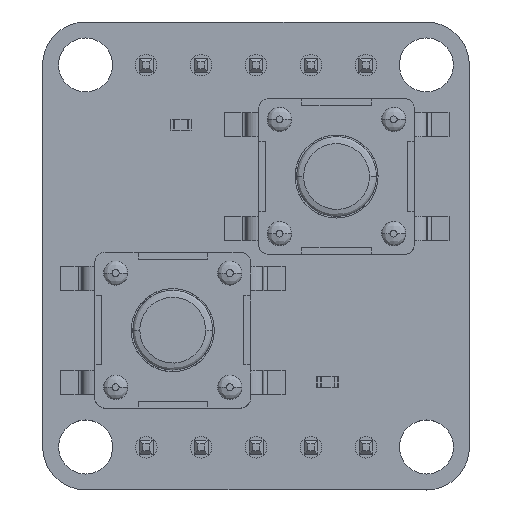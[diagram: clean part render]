
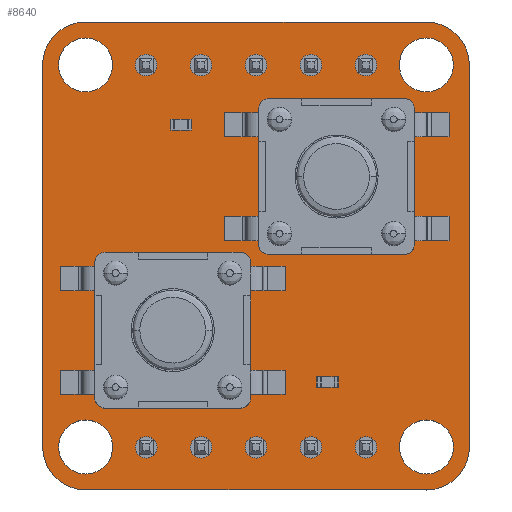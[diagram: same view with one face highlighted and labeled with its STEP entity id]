
A CAD part, top view. The second image highlights one B-rep face of the part: STEP entity #8640.
In plain terms, the highlighted planar face has unit normal (0, 0, 1).
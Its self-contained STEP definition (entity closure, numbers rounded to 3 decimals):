
#8337 = VERTEX_POINT('',#8338);
#8338 = CARTESIAN_POINT('',(187.182,-85.744,1.6));
#8344 = EDGE_CURVE('',#8337,#8345,#8347,.T.);
#8345 = VERTEX_POINT('',#8346);
#8346 = CARTESIAN_POINT('',(189.168,-87.73,1.6));
#8347 = CIRCLE('',#8348,1.986);
#8348 = AXIS2_PLACEMENT_3D('',#8349,#8350,#8351);
#8349 = CARTESIAN_POINT('',(187.182,-87.73,1.6));
#8350 = DIRECTION('',(0.,0.,-1.));
#8351 = DIRECTION('',(0.,1.,0.));
#8379 = VERTEX_POINT('',#8380);
#8380 = CARTESIAN_POINT('',(171.423,-85.744,1.6));
#8386 = EDGE_CURVE('',#8379,#8337,#8387,.T.);
#8387 = LINE('',#8388,#8389);
#8388 = CARTESIAN_POINT('',(171.423,-85.744,1.6));
#8389 = VECTOR('',#8390,1.);
#8390 = DIRECTION('',(1.,0.,0.));
#8408 = EDGE_CURVE('',#8345,#8409,#8411,.T.);
#8409 = VERTEX_POINT('',#8410);
#8410 = CARTESIAN_POINT('',(189.174,-105.395,1.6));
#8411 = LINE('',#8412,#8413);
#8412 = CARTESIAN_POINT('',(189.168,-87.73,1.6));
#8413 = VECTOR('',#8414,1.);
#8414 = DIRECTION('',(0.,-1.,0.));
#8640 = ADVANCED_FACE('',(#8641,#8687,#8698,#8709,#8720,#8731,#8742,
    #8753,#8764,#8775,#8786,#8797,#8808,#8819,#8830),#8841,.T.);
#8641 = FACE_BOUND('',#8642,.T.);
#8642 = EDGE_LOOP('',(#8643,#8644,#8645,#8654,#8662,#8671,#8679,#8686));
#8643 = ORIENTED_EDGE('',*,*,#8344,.F.);
#8644 = ORIENTED_EDGE('',*,*,#8386,.F.);
#8645 = ORIENTED_EDGE('',*,*,#8646,.F.);
#8646 = EDGE_CURVE('',#8647,#8379,#8649,.T.);
#8647 = VERTEX_POINT('',#8648);
#8648 = CARTESIAN_POINT('',(169.437,-87.73,1.6));
#8649 = CIRCLE('',#8650,1.986);
#8650 = AXIS2_PLACEMENT_3D('',#8651,#8652,#8653);
#8651 = CARTESIAN_POINT('',(171.423,-87.73,1.6));
#8652 = DIRECTION('',(0.,0.,-1.));
#8653 = DIRECTION('',(-1.,0.,0.));
#8654 = ORIENTED_EDGE('',*,*,#8655,.F.);
#8655 = EDGE_CURVE('',#8656,#8647,#8658,.T.);
#8656 = VERTEX_POINT('',#8657);
#8657 = CARTESIAN_POINT('',(169.443,-105.395,1.6));
#8658 = LINE('',#8659,#8660);
#8659 = CARTESIAN_POINT('',(169.443,-105.395,1.6));
#8660 = VECTOR('',#8661,1.);
#8661 = DIRECTION('',(0.,1.,0.));
#8662 = ORIENTED_EDGE('',*,*,#8663,.F.);
#8663 = EDGE_CURVE('',#8664,#8656,#8666,.T.);
#8664 = VERTEX_POINT('',#8665);
#8665 = CARTESIAN_POINT('',(171.429,-107.381,1.6));
#8666 = CIRCLE('',#8667,1.986);
#8667 = AXIS2_PLACEMENT_3D('',#8668,#8669,#8670);
#8668 = CARTESIAN_POINT('',(171.429,-105.395,1.6));
#8669 = DIRECTION('',(0.,0.,-1.));
#8670 = DIRECTION('',(0.,-1.,-0.));
#8671 = ORIENTED_EDGE('',*,*,#8672,.F.);
#8672 = EDGE_CURVE('',#8673,#8664,#8675,.T.);
#8673 = VERTEX_POINT('',#8674);
#8674 = CARTESIAN_POINT('',(187.188,-107.381,1.6));
#8675 = LINE('',#8676,#8677);
#8676 = CARTESIAN_POINT('',(187.188,-107.381,1.6));
#8677 = VECTOR('',#8678,1.);
#8678 = DIRECTION('',(-1.,0.,0.));
#8679 = ORIENTED_EDGE('',*,*,#8680,.F.);
#8680 = EDGE_CURVE('',#8409,#8673,#8681,.T.);
#8681 = CIRCLE('',#8682,1.986);
#8682 = AXIS2_PLACEMENT_3D('',#8683,#8684,#8685);
#8683 = CARTESIAN_POINT('',(187.188,-105.395,1.6));
#8684 = DIRECTION('',(0.,0.,-1.));
#8685 = DIRECTION('',(1.,0.,0.));
#8686 = ORIENTED_EDGE('',*,*,#8408,.F.);
#8687 = FACE_BOUND('',#8688,.T.);
#8688 = EDGE_LOOP('',(#8689));
#8689 = ORIENTED_EDGE('',*,*,#8690,.T.);
#8690 = EDGE_CURVE('',#8691,#8691,#8693,.T.);
#8691 = VERTEX_POINT('',#8692);
#8692 = CARTESIAN_POINT('',(171.429,-106.645,1.6));
#8693 = CIRCLE('',#8694,1.25);
#8694 = AXIS2_PLACEMENT_3D('',#8695,#8696,#8697);
#8695 = CARTESIAN_POINT('',(171.429,-105.395,1.6));
#8696 = DIRECTION('',(-0.,0.,-1.));
#8697 = DIRECTION('',(-0.,-1.,0.));
#8698 = FACE_BOUND('',#8699,.T.);
#8699 = EDGE_LOOP('',(#8700));
#8700 = ORIENTED_EDGE('',*,*,#8701,.T.);
#8701 = EDGE_CURVE('',#8702,#8702,#8704,.T.);
#8702 = VERTEX_POINT('',#8703);
#8703 = CARTESIAN_POINT('',(174.23,-105.91,1.6));
#8704 = CIRCLE('',#8705,0.5);
#8705 = AXIS2_PLACEMENT_3D('',#8706,#8707,#8708);
#8706 = CARTESIAN_POINT('',(174.23,-105.41,1.6));
#8707 = DIRECTION('',(-0.,0.,-1.));
#8708 = DIRECTION('',(-0.,-1.,0.));
#8709 = FACE_BOUND('',#8710,.T.);
#8710 = EDGE_LOOP('',(#8711));
#8711 = ORIENTED_EDGE('',*,*,#8712,.T.);
#8712 = EDGE_CURVE('',#8713,#8713,#8715,.T.);
#8713 = VERTEX_POINT('',#8714);
#8714 = CARTESIAN_POINT('',(176.77,-105.91,1.6));
#8715 = CIRCLE('',#8716,0.5);
#8716 = AXIS2_PLACEMENT_3D('',#8717,#8718,#8719);
#8717 = CARTESIAN_POINT('',(176.77,-105.41,1.6));
#8718 = DIRECTION('',(-0.,0.,-1.));
#8719 = DIRECTION('',(-0.,-1.,0.));
#8720 = FACE_BOUND('',#8721,.T.);
#8721 = EDGE_LOOP('',(#8722));
#8722 = ORIENTED_EDGE('',*,*,#8723,.T.);
#8723 = EDGE_CURVE('',#8724,#8724,#8726,.T.);
#8724 = VERTEX_POINT('',#8725);
#8725 = CARTESIAN_POINT('',(179.31,-105.91,1.6));
#8726 = CIRCLE('',#8727,0.5);
#8727 = AXIS2_PLACEMENT_3D('',#8728,#8729,#8730);
#8728 = CARTESIAN_POINT('',(179.31,-105.41,1.6));
#8729 = DIRECTION('',(-0.,0.,-1.));
#8730 = DIRECTION('',(-0.,-1.,0.));
#8731 = FACE_BOUND('',#8732,.T.);
#8732 = EDGE_LOOP('',(#8733));
#8733 = ORIENTED_EDGE('',*,*,#8734,.T.);
#8734 = EDGE_CURVE('',#8735,#8735,#8737,.T.);
#8735 = VERTEX_POINT('',#8736);
#8736 = CARTESIAN_POINT('',(181.85,-105.91,1.6));
#8737 = CIRCLE('',#8738,0.5);
#8738 = AXIS2_PLACEMENT_3D('',#8739,#8740,#8741);
#8739 = CARTESIAN_POINT('',(181.85,-105.41,1.6));
#8740 = DIRECTION('',(-0.,0.,-1.));
#8741 = DIRECTION('',(-0.,-1.,0.));
#8742 = FACE_BOUND('',#8743,.T.);
#8743 = EDGE_LOOP('',(#8744));
#8744 = ORIENTED_EDGE('',*,*,#8745,.T.);
#8745 = EDGE_CURVE('',#8746,#8746,#8748,.T.);
#8746 = VERTEX_POINT('',#8747);
#8747 = CARTESIAN_POINT('',(184.39,-105.91,1.6));
#8748 = CIRCLE('',#8749,0.5);
#8749 = AXIS2_PLACEMENT_3D('',#8750,#8751,#8752);
#8750 = CARTESIAN_POINT('',(184.39,-105.41,1.6));
#8751 = DIRECTION('',(-0.,0.,-1.));
#8752 = DIRECTION('',(-0.,-1.,0.));
#8753 = FACE_BOUND('',#8754,.T.);
#8754 = EDGE_LOOP('',(#8755));
#8755 = ORIENTED_EDGE('',*,*,#8756,.T.);
#8756 = EDGE_CURVE('',#8757,#8757,#8759,.T.);
#8757 = VERTEX_POINT('',#8758);
#8758 = CARTESIAN_POINT('',(187.188,-106.645,1.6));
#8759 = CIRCLE('',#8760,1.25);
#8760 = AXIS2_PLACEMENT_3D('',#8761,#8762,#8763);
#8761 = CARTESIAN_POINT('',(187.188,-105.395,1.6));
#8762 = DIRECTION('',(-0.,0.,-1.));
#8763 = DIRECTION('',(-0.,-1.,0.));
#8764 = FACE_BOUND('',#8765,.T.);
#8765 = EDGE_LOOP('',(#8766));
#8766 = ORIENTED_EDGE('',*,*,#8767,.T.);
#8767 = EDGE_CURVE('',#8768,#8768,#8770,.T.);
#8768 = VERTEX_POINT('',#8769);
#8769 = CARTESIAN_POINT('',(171.423,-88.98,1.6));
#8770 = CIRCLE('',#8771,1.25);
#8771 = AXIS2_PLACEMENT_3D('',#8772,#8773,#8774);
#8772 = CARTESIAN_POINT('',(171.423,-87.73,1.6));
#8773 = DIRECTION('',(-0.,0.,-1.));
#8774 = DIRECTION('',(-0.,-1.,0.));
#8775 = FACE_BOUND('',#8776,.T.);
#8776 = EDGE_LOOP('',(#8777));
#8777 = ORIENTED_EDGE('',*,*,#8778,.T.);
#8778 = EDGE_CURVE('',#8779,#8779,#8781,.T.);
#8779 = VERTEX_POINT('',#8780);
#8780 = CARTESIAN_POINT('',(174.225,-88.24,1.6));
#8781 = CIRCLE('',#8782,0.5);
#8782 = AXIS2_PLACEMENT_3D('',#8783,#8784,#8785);
#8783 = CARTESIAN_POINT('',(174.225,-87.74,1.6));
#8784 = DIRECTION('',(-0.,0.,-1.));
#8785 = DIRECTION('',(-0.,-1.,0.));
#8786 = FACE_BOUND('',#8787,.T.);
#8787 = EDGE_LOOP('',(#8788));
#8788 = ORIENTED_EDGE('',*,*,#8789,.T.);
#8789 = EDGE_CURVE('',#8790,#8790,#8792,.T.);
#8790 = VERTEX_POINT('',#8791);
#8791 = CARTESIAN_POINT('',(176.765,-88.24,1.6));
#8792 = CIRCLE('',#8793,0.5);
#8793 = AXIS2_PLACEMENT_3D('',#8794,#8795,#8796);
#8794 = CARTESIAN_POINT('',(176.765,-87.74,1.6));
#8795 = DIRECTION('',(-0.,0.,-1.));
#8796 = DIRECTION('',(-0.,-1.,0.));
#8797 = FACE_BOUND('',#8798,.T.);
#8798 = EDGE_LOOP('',(#8799));
#8799 = ORIENTED_EDGE('',*,*,#8800,.T.);
#8800 = EDGE_CURVE('',#8801,#8801,#8803,.T.);
#8801 = VERTEX_POINT('',#8802);
#8802 = CARTESIAN_POINT('',(179.305,-88.24,1.6));
#8803 = CIRCLE('',#8804,0.5);
#8804 = AXIS2_PLACEMENT_3D('',#8805,#8806,#8807);
#8805 = CARTESIAN_POINT('',(179.305,-87.74,1.6));
#8806 = DIRECTION('',(-0.,0.,-1.));
#8807 = DIRECTION('',(-0.,-1.,0.));
#8808 = FACE_BOUND('',#8809,.T.);
#8809 = EDGE_LOOP('',(#8810));
#8810 = ORIENTED_EDGE('',*,*,#8811,.T.);
#8811 = EDGE_CURVE('',#8812,#8812,#8814,.T.);
#8812 = VERTEX_POINT('',#8813);
#8813 = CARTESIAN_POINT('',(181.845,-88.24,1.6));
#8814 = CIRCLE('',#8815,0.5);
#8815 = AXIS2_PLACEMENT_3D('',#8816,#8817,#8818);
#8816 = CARTESIAN_POINT('',(181.845,-87.74,1.6));
#8817 = DIRECTION('',(-0.,0.,-1.));
#8818 = DIRECTION('',(-0.,-1.,0.));
#8819 = FACE_BOUND('',#8820,.T.);
#8820 = EDGE_LOOP('',(#8821));
#8821 = ORIENTED_EDGE('',*,*,#8822,.T.);
#8822 = EDGE_CURVE('',#8823,#8823,#8825,.T.);
#8823 = VERTEX_POINT('',#8824);
#8824 = CARTESIAN_POINT('',(184.385,-88.24,1.6));
#8825 = CIRCLE('',#8826,0.5);
#8826 = AXIS2_PLACEMENT_3D('',#8827,#8828,#8829);
#8827 = CARTESIAN_POINT('',(184.385,-87.74,1.6));
#8828 = DIRECTION('',(-0.,0.,-1.));
#8829 = DIRECTION('',(-0.,-1.,0.));
#8830 = FACE_BOUND('',#8831,.T.);
#8831 = EDGE_LOOP('',(#8832));
#8832 = ORIENTED_EDGE('',*,*,#8833,.T.);
#8833 = EDGE_CURVE('',#8834,#8834,#8836,.T.);
#8834 = VERTEX_POINT('',#8835);
#8835 = CARTESIAN_POINT('',(187.182,-88.98,1.6));
#8836 = CIRCLE('',#8837,1.25);
#8837 = AXIS2_PLACEMENT_3D('',#8838,#8839,#8840);
#8838 = CARTESIAN_POINT('',(187.182,-87.73,1.6));
#8839 = DIRECTION('',(-0.,0.,-1.));
#8840 = DIRECTION('',(-0.,-1.,0.));
#8841 = PLANE('',#8842);
#8842 = AXIS2_PLACEMENT_3D('',#8843,#8844,#8845);
#8843 = CARTESIAN_POINT('',(0.,0.,1.6));
#8844 = DIRECTION('',(0.,0.,1.));
#8845 = DIRECTION('',(1.,0.,-0.));
